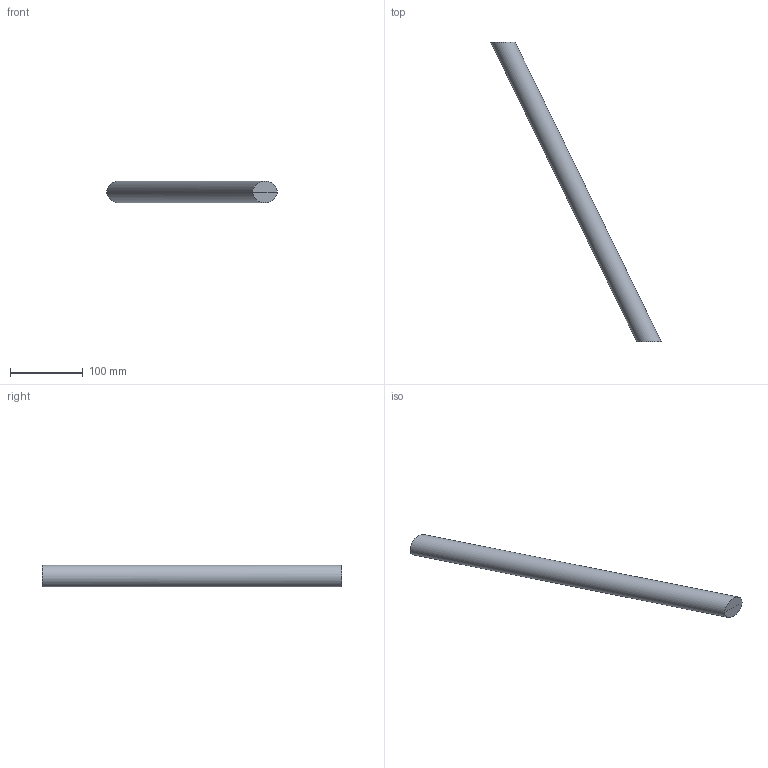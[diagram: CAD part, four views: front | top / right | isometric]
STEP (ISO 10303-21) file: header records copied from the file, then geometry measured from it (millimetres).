
FILE_DESCRIPTION(/* description */ ('C TOWER MAST SECTION 80 CM'),/* implementation_level */ '2;1');
FILE_NAME(/* name */ 'M:\Symbolen_NIEUW\STP\52-er truss\C52T\C52T-L080_111810028.stp',/* time_stamp */ '2017-12-15T15:30:18+01:00',/* author */ ('Kees'),/* organization */ (''),/* preprocessor_version */ 'ST-DEVELOPER v16.13',/* originating_system */ 'Autodesk Inventor 2018',/* authorisation */ '');
FILE_SCHEMA (('AUTOMOTIVE_DESIGN { 1 0 10303 214 3 1 1 }'));
Length unit declared in the file: millimetre
Products named in the file (1): 260009931
Bounding box: 233.35 x 410 x 29.99 mm (x, y, z)
Volume: 322445.3 mm3; surface area: 44565.6 mm2
Topology: 1 solids, 1 shells, 5 faces, 7 edges, 4 vertices
Faces by surface type: plane 4, cylinder 1
Full cylindrical faces by diameter (mm): 30 x1
Entity records: 156 total; most frequent: DIRECTION 22, CARTESIAN_POINT 16, ORIENTED_EDGE 12, AXIS2_PLACEMENT_3D 10, EDGE_LOOP 6, EDGE_CURVE 6, STYLED_ITEM 6, FACE_OUTER_BOUND 5
